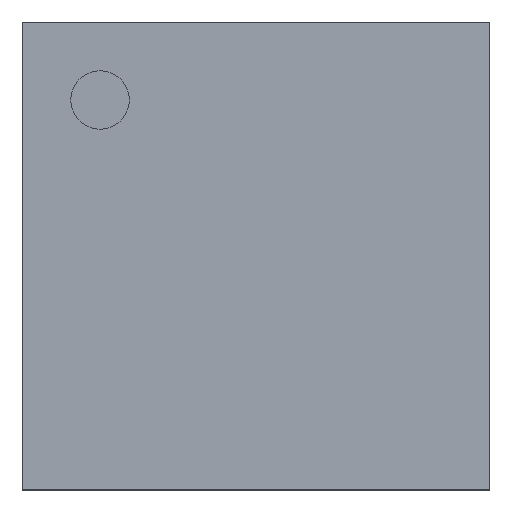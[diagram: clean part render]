
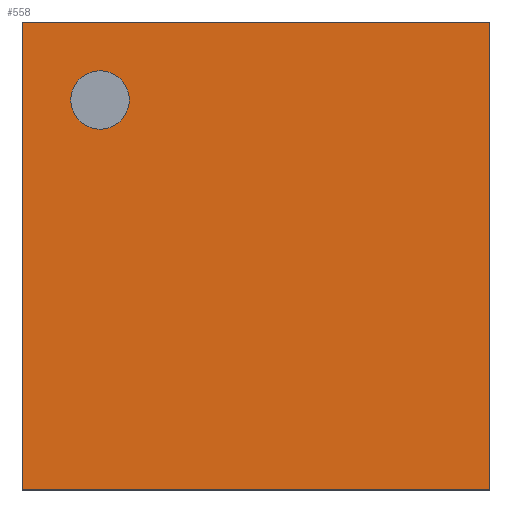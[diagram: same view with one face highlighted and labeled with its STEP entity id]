
A CAD part, top view. The second image highlights one B-rep face of the part: STEP entity #558.
In plain terms, the highlighted planar face has unit normal (0, 0, 1).
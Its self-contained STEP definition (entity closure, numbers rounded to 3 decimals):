
#494 = VERTEX_POINT('',#495);
#495 = CARTESIAN_POINT('',(0.,0.,0.84));
#510 = VERTEX_POINT('',#511);
#511 = CARTESIAN_POINT('',(0.,7.,0.84));
#517 = EDGE_CURVE('',#494,#510,#518,.T.);
#518 = LINE('',#519,#520);
#519 = CARTESIAN_POINT('',(0.,0.,0.84));
#520 = VECTOR('',#521,1.);
#521 = DIRECTION('',(0.,1.,0.));
#540 = EDGE_CURVE('',#494,#541,#543,.T.);
#541 = VERTEX_POINT('',#542);
#542 = CARTESIAN_POINT('',(7.,0.,0.84));
#543 = LINE('',#544,#545);
#544 = CARTESIAN_POINT('',(0.,0.,0.84));
#545 = VECTOR('',#546,1.);
#546 = DIRECTION('',(1.,0.,0.));
#558 = ADVANCED_FACE('',(#559,#577),#588,.T.);
#559 = FACE_BOUND('',#560,.T.);
#560 = EDGE_LOOP('',(#561,#562,#563,#571));
#561 = ORIENTED_EDGE('',*,*,#517,.F.);
#562 = ORIENTED_EDGE('',*,*,#540,.T.);
#563 = ORIENTED_EDGE('',*,*,#564,.T.);
#564 = EDGE_CURVE('',#541,#565,#567,.T.);
#565 = VERTEX_POINT('',#566);
#566 = CARTESIAN_POINT('',(7.,7.,0.84));
#567 = LINE('',#568,#569);
#568 = CARTESIAN_POINT('',(7.,0.,0.84));
#569 = VECTOR('',#570,1.);
#570 = DIRECTION('',(0.,1.,0.));
#571 = ORIENTED_EDGE('',*,*,#572,.F.);
#572 = EDGE_CURVE('',#510,#565,#573,.T.);
#573 = LINE('',#574,#575);
#574 = CARTESIAN_POINT('',(0.,7.,0.84));
#575 = VECTOR('',#576,1.);
#576 = DIRECTION('',(1.,0.,0.));
#577 = FACE_BOUND('',#578,.T.);
#578 = EDGE_LOOP('',(#579));
#579 = ORIENTED_EDGE('',*,*,#580,.F.);
#580 = EDGE_CURVE('',#581,#581,#583,.T.);
#581 = VERTEX_POINT('',#582);
#582 = CARTESIAN_POINT('',(1.604,5.833,0.84));
#583 = CIRCLE('',#584,0.438);
#584 = AXIS2_PLACEMENT_3D('',#585,#586,#587);
#585 = CARTESIAN_POINT('',(1.167,5.833,0.84));
#586 = DIRECTION('',(0.,0.,1.));
#587 = DIRECTION('',(1.,0.,0.));
#588 = PLANE('',#589);
#589 = AXIS2_PLACEMENT_3D('',#590,#591,#592);
#590 = CARTESIAN_POINT('',(0.,0.,0.84));
#591 = DIRECTION('',(0.,0.,1.));
#592 = DIRECTION('',(1.,0.,0.));
